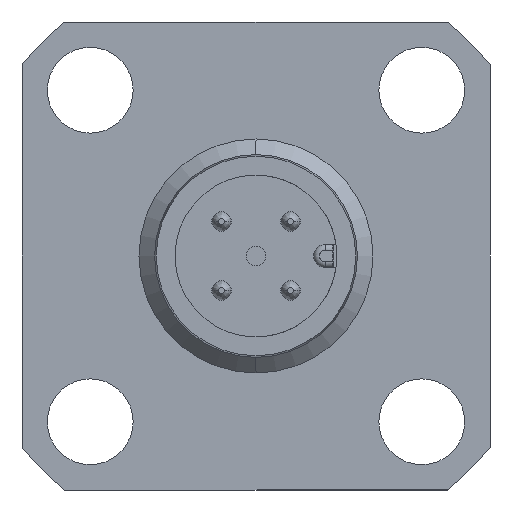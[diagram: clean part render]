
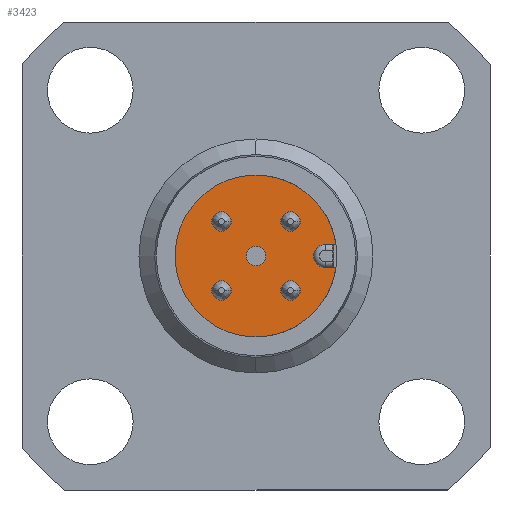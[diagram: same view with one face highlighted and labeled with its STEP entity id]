
A CAD part, front view. The second image highlights one B-rep face of the part: STEP entity #3423.
In plain terms, the highlighted planar face has unit normal (0, -1, 0).
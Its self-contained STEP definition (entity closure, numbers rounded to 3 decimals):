
#235 = ORIENTED_EDGE ( 'NONE', *, *, #1257, .F. ) ;
#378 = ORIENTED_EDGE ( 'NONE', *, *, #880, .F. ) ;
#452 = CARTESIAN_POINT ( 'NONE',  ( -44.5, -28.5, 0. ) ) ;
#790 = ORIENTED_EDGE ( 'NONE', *, *, #4568, .F. ) ;
#880 = EDGE_CURVE ( 'NONE', #5159, #3268, #3668, .T. ) ;
#888 = DIRECTION ( 'NONE',  ( 0., 0., 1. ) ) ;
#900 = DIRECTION ( 'NONE',  ( 0., -1., 0. ) ) ;
#1165 = AXIS2_PLACEMENT_3D ( 'NONE', #1591, #5392, #4351 ) ;
#1257 = EDGE_CURVE ( 'NONE', #2768, #4002, #1821, .T. ) ;
#1591 = CARTESIAN_POINT ( 'NONE',  ( -44.5, -28.5, 0. ) ) ;
#1744 = PLANE ( 'NONE',  #5499 ) ;
#1821 = CIRCLE ( 'NONE', #5602, 0.5 ) ;
#1909 = CARTESIAN_POINT ( 'NONE',  ( -44.5, -28.5, 0. ) ) ;
#2079 = AXIS2_PLACEMENT_3D ( 'NONE', #452, #3599, #888 ) ;
#2139 = CIRCLE ( 'NONE', #4138, 0.5 ) ;
#2197 = DIRECTION ( 'NONE',  ( 0., 1., 0. ) ) ;
#2399 = EDGE_CURVE ( 'NONE', #4002, #2768, #2139, .T. ) ;
#2400 = ORIENTED_EDGE ( 'NONE', *, *, #2399, .F. ) ;
#2475 = FACE_OUTER_BOUND ( 'NONE', #5145, .T. ) ;
#2768 = VERTEX_POINT ( 'NONE', #5757 ) ;
#3098 = CARTESIAN_POINT ( 'NONE',  ( -44.5, -28.5, 0. ) ) ;
#3268 = VERTEX_POINT ( 'NONE', #3887 ) ;
#3423 = ADVANCED_FACE ( 'NONE', ( #2475, #4909 ), #1744, .F. ) ;
#3599 = DIRECTION ( 'NONE',  ( 0., 1., 0. ) ) ;
#3621 = CARTESIAN_POINT ( 'NONE',  ( -44.5, -28.5, 0. ) ) ;
#3668 = CIRCLE ( 'NONE', #1165, 4.15 ) ;
#3887 = CARTESIAN_POINT ( 'NONE',  ( -44.5, -28.5, 4.15 ) ) ;
#3967 = CARTESIAN_POINT ( 'NONE',  ( -44.5, -28.5, 0.5 ) ) ;
#4002 = VERTEX_POINT ( 'NONE', #3967 ) ;
#4083 = DIRECTION ( 'NONE',  ( 0., 0., 1. ) ) ;
#4128 = CARTESIAN_POINT ( 'NONE',  ( -44.5, -28.5, -4.15 ) ) ;
#4138 = AXIS2_PLACEMENT_3D ( 'NONE', #3621, #900, #4083 ) ;
#4143 = DIRECTION ( 'NONE',  ( 0., 0., 1. ) ) ;
#4351 = DIRECTION ( 'NONE',  ( 0., 0., 1. ) ) ;
#4568 = EDGE_CURVE ( 'NONE', #3268, #5159, #5175, .T. ) ;
#4622 = DIRECTION ( 'NONE',  ( 0., -1., 0. ) ) ;
#4909 = FACE_BOUND ( 'NONE', #5561, .T. ) ;
#5145 = EDGE_LOOP ( 'NONE', ( #790, #378 ) ) ;
#5159 = VERTEX_POINT ( 'NONE', #4128 ) ;
#5175 = CIRCLE ( 'NONE', #2079, 4.15 ) ;
#5370 = DIRECTION ( 'NONE',  ( 0., 0., 1. ) ) ;
#5392 = DIRECTION ( 'NONE',  ( 0., 1., 0. ) ) ;
#5499 = AXIS2_PLACEMENT_3D ( 'NONE', #3098, #2197, #5370 ) ;
#5561 = EDGE_LOOP ( 'NONE', ( #2400, #235 ) ) ;
#5602 = AXIS2_PLACEMENT_3D ( 'NONE', #1909, #4622, #4143 ) ;
#5757 = CARTESIAN_POINT ( 'NONE',  ( -44.5, -28.5, -0.5 ) ) ;
